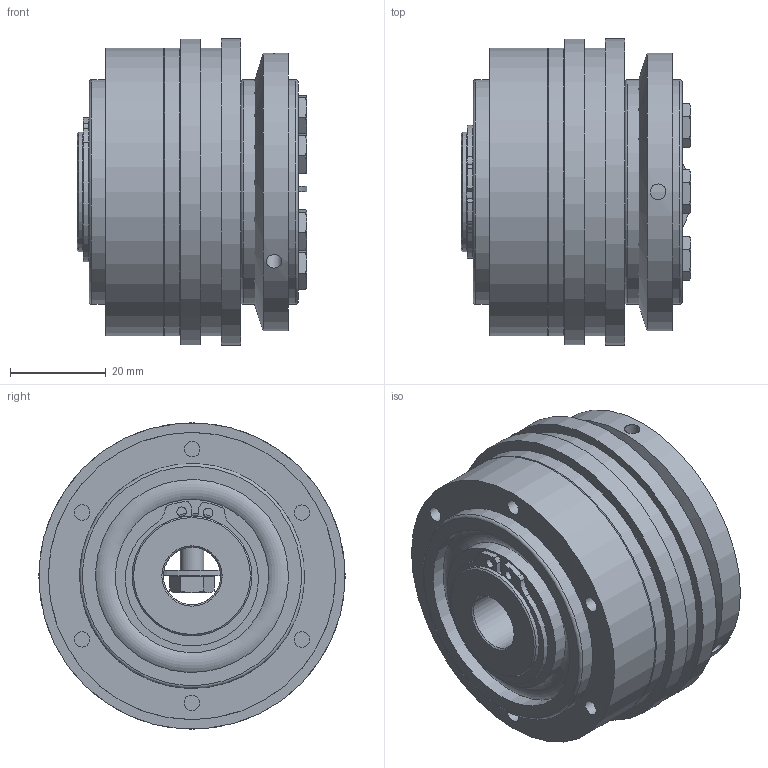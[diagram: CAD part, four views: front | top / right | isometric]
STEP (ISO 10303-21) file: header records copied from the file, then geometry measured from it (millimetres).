
FILE_DESCRIPTION( ( 'Unknown' ), '1' );
FILE_NAME( 'C:/Dokumente und Einstellungen/Sven/Desktop/hp kbk/KBK L-A-30.stp', 'Unknown', ( 'Unknown' ), ( 'Unknown' ), 'XStep 1.0', 'Unknown', ' ' );
FILE_SCHEMA( ( 'automotive_design' ) );
Length unit declared in the file: millimetre
Products named in the file (12): Assem1; Assem2; ball_bearing_-_6005_0_01; ball_bearing_-_6005_0_02; ball_bearing_-_6005_0_03; Stellring 30; Druckring 30; a_25; L-A-30 Grundkörper; din_en_24017_m5x16; Flansch L30; Druckring L-A-30
Bounding box: 48 x 64 x 64 mm (x, y, z)
Volume: 184217.8 mm3; surface area: 103832.6 mm2
Topology: 28 solids, 28 shells, 431 faces, 918 edges, 588 vertices
Faces by surface type: plane 187, cylinder 126, cone 86, torus 32
Full cylindrical faces by diameter (mm): 2 x4, 3.242 x18, 4.134 x12, 5 x7, 5.5 x12, 6.88 x7, 12 x2, 23.9 x2, 24.7 x2, 25 x7, 32 x6, 34 x2, 38 x4, 40 x2, 40.3 x6, 46 x2, 47 x5, 52 x2, 58 x2, 60 x4, 64 x2
Entity records: 4287 total; most frequent: CARTESIAN_POINT 945, DIRECTION 724, ORIENTED_EDGE 478, AXIS2_PLACEMENT_3D 334, EDGE_LOOP 276, EDGE_CURVE 239, FACE_OUTER_BOUND 207, VERTEX_POINT 195
